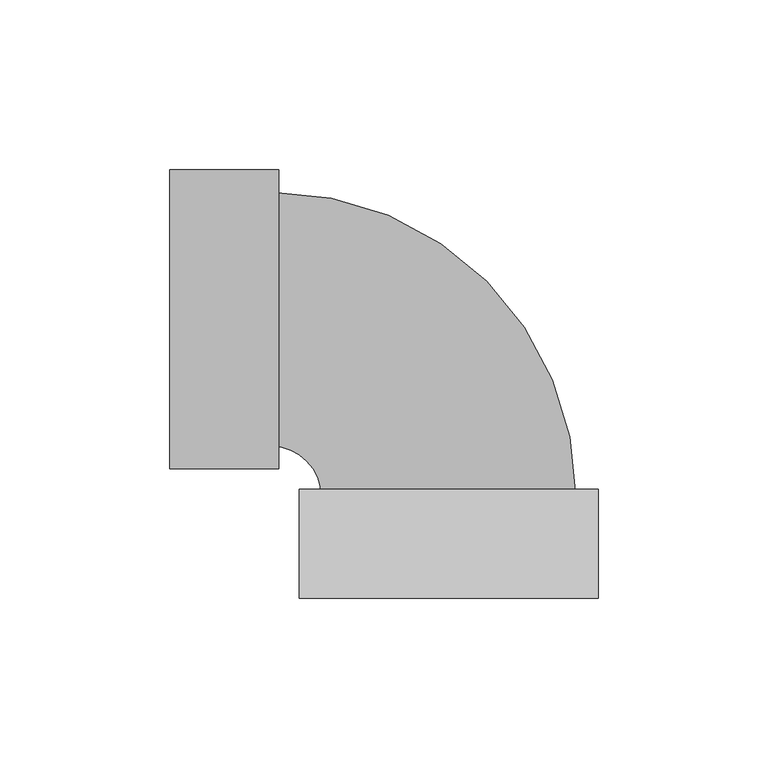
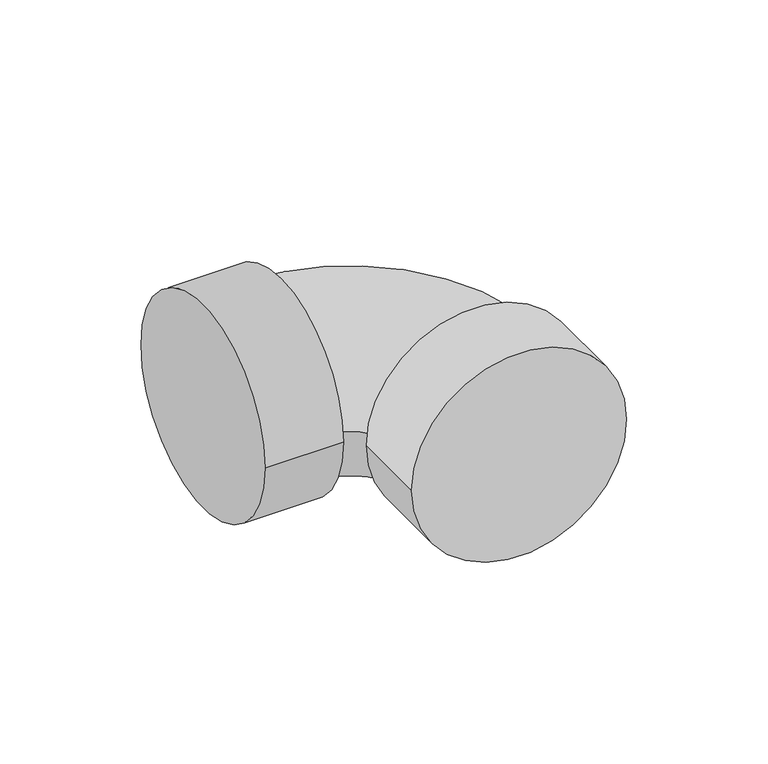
"""IFC4 building model written with IfcOpenShell, lengths in millimetres: pipe fitting geometry, 01011001 : Joelho a 90º."""

from ifc_helpers import new_model, si_unit, point, frame, origin, origin_2d, place, context, project, spatial, circle_curve, ellipse_curve, trimmed, segment, composite_curve, outline, extrude, source, transform, mapped, element, save
from ifc_brep_helpers import plane_surface, revolved_surface, advanced_brep


def pipe_fitting_76c899cb(model_context):
    return source(origin(), model_context, "Body", "SolidModel", [
        extrude(outline(composite_curve([segment(trimmed(circle_curve(origin_2d(), 44.0), [point((0.0, -44.0))], [point((0.0, 44.0))], False, "CARTESIAN"), True, "CONTINUOUS"), segment(trimmed(circle_curve(origin_2d(), 44.0), [point((0.0, 44.0))], [point((0.0, -44.0))], False, "CARTESIAN"), True, "CONTINUOUS")], self_intersect=False)), frame((0.0, -82.0, 0.0), z_axis=(0.0, 1.0, 0.0), x_axis=(0.0, 0.0, 1.0)), (0.0, 0.0, 1.0), 32.0),
        extrude(outline(composite_curve([segment(trimmed(circle_curve(origin_2d(), 44.0), [point((44.0, 0.0))], [point((-44.0, 0.0))], False, "CARTESIAN"), True, "CONTINUOUS"), segment(trimmed(circle_curve(origin_2d(), 44.0), [point((-44.0, 0.0))], [point((44.0, 0.0))], False, "CARTESIAN"), True, "CONTINUOUS")], self_intersect=False)), frame((-82.0, 0.0, 0.0), z_axis=(1.0, 0.0, 0.0), x_axis=(0.0, 1.0, 0.0)), (0.0, 0.0, 1.0), 32.0),
        advanced_brep(
        [(-37.4, -52.0, 0.0), (37.4, -52.0, 0.0), (-52.0, -37.4, 0.0), (-52.0, 37.4, 0.0)],
        [
            (0, 1, circle_curve(frame((0.0, -52.0, 0.0), z_axis=(0.0, -1.0, 0.0), x_axis=(1.0, 0.0, 0.0)), 37.4)),
            (1, 0, circle_curve(frame((0.0, -52.0, 0.0), z_axis=(0.0, -1.0, 0.0), x_axis=(1.0, 0.0, 0.0)), 37.4)),
            (2, 3, circle_curve(frame((-52.0, 0.0, 0.0), z_axis=(-1.0, 0.0, 0.0), x_axis=(0.0, 1.0, 0.0)), 37.4)),
            (3, 2, circle_curve(frame((-52.0, 0.0, 0.0), z_axis=(-1.0, 0.0, 0.0), x_axis=(0.0, 1.0, 0.0)), 37.4)),
            (2, 0, circle_curve(frame((-52.0, -52.0, 0.0), z_axis=(0.0, 0.0, -1.0), x_axis=(1.0, 0.0, 0.0)), 14.6)),
            (1, 3, circle_curve(frame((-52.0, -52.0, 0.0), z_axis=(0.0, 0.0, 1.0), x_axis=(1.0, 0.0, 0.0)), 89.4)),
        ],
        [
            plane_surface(frame((0.0, -52.0, 0.0), z_axis=(0.0, -1.0, 0.0), x_axis=(0.0, 0.0, 1.0))),
            plane_surface(frame((-52.0, 0.0, 0.0), z_axis=(-1.0, 0.0, 0.0), x_axis=(0.0, 0.0, 1.0))),
            revolved_surface(trimmed(ellipse_curve(frame((0.0, -52.0, 0.0), z_axis=(0.0, 1.0, 0.0), x_axis=(1.0, 0.0, 0.0)), 37.4, 37.4), [point((-37.4, -52.0, 0.0))], [point((37.4, -52.0, 0.0))], True, "CARTESIAN"), (-52.0, -52.0, 0.0), (0.0, 0.0, -1.0)),
            revolved_surface(trimmed(ellipse_curve(frame((0.0, -52.0, 0.0), z_axis=(0.0, 1.0, 0.0), x_axis=(1.0, 0.0, 0.0)), 37.4, 37.4), [point((37.4, -52.0, 0.0))], [point((-37.4, -52.0, 0.0))], True, "CARTESIAN"), (-52.0, -52.0, 0.0), (0.0, 0.0, -1.0)),
        ],
        [
            (0, [[1, 2]]),
            (1, [[3, 4]]),
            (2, [[-3, 5, -2, 6]]),
            (3, [[-4, -6, -1, -5]]),
        ],
    ),
    ])


if __name__ == "__main__":
    model = new_model("IFC4")
    model_context = context("Model", 3, world=origin())
    ifc_project = project(units=[si_unit("LENGTHUNIT", "METRE", prefix="MILLI")], contexts=[model_context])
    site = spatial("IfcSite", under=ifc_project)
    building = spatial("IfcBuilding", under=site)
    placement = place(None, origin())
    pipe_fitting_shape = pipe_fitting_76c899cb(model_context)
    element("IfcPipeFitting", 1, ObjectType="01011001 : Joelho a 90º", at=placement, inside=building, context=model_context, shape_type="MappedRepresentation", body=[
        mapped(pipe_fitting_shape, transform((0.0, 0.0, 0.0), x_axis=(1.0, 0.0, 0.0), y_axis=(0.0, 1.0, 0.0), z_axis=(0.0, 0.0, 1.0))),
    ])
    save(model, "model.ifc")
